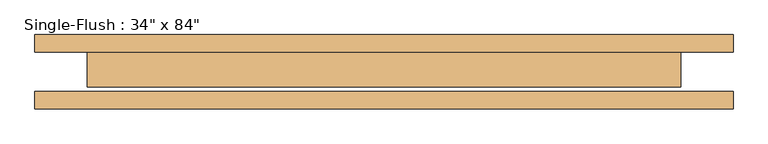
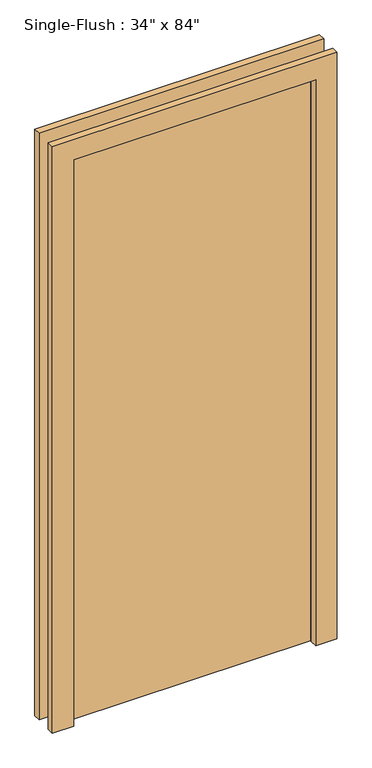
"""IFC4 building model written with IfcOpenShell, lengths in millimetres: door geometry."""

from ifc_helpers import new_model, si_unit, frame, origin, origin_with_axes, place, context, project, spatial, polyline, outline, extrude, source, transform, mapped, element, save


def door_31ee638c(model_context):
    return source(origin(), model_context, "Body", "SweptSolid", [
        extrude(outline(polyline([(2209.8, -508.0), (0.0, -508.0), (0.0, -431.8), (2133.6, -431.8), (2133.6, 431.8), (0.0, 431.8), (0.0, 508.0), (2209.8, 508.0), (2209.8, -508.0)])), frame((0.0, 28.575, 0.0), z_axis=(0.0, 1.0, 0.0), x_axis=(0.0, 0.0, 1.0)), (0.0, 0.0, 1.0), 25.4),
        extrude(outline(polyline([(2209.8, 508.0), (2209.8, -508.0), (0.0, -508.0), (0.0, -431.8), (2133.6, -431.8), (2133.6, 431.8), (0.0, 431.8), (0.0, 508.0), (2209.8, 508.0)])), frame((0.0, -53.975, 0.0), z_axis=(0.0, 1.0, 0.0), x_axis=(0.0, 0.0, 1.0)), (0.0, 0.0, 1.0), 25.4),
        extrude(outline(polyline([(431.8, -22.225), (-431.8, -22.225), (-431.8, 28.575), (431.8, 28.575), (431.8, -22.225)])), origin_with_axes(), (0.0, 0.0, 1.0), 2133.6),
    ])


if __name__ == "__main__":
    model = new_model("IFC4")
    model_context = context("Model", 3, world=origin())
    ifc_project = project(units=[si_unit("LENGTHUNIT", "METRE", prefix="MILLI")], contexts=[model_context])
    site = spatial("IfcSite", under=ifc_project)
    building = spatial("IfcBuilding", under=site)
    placement = place(None, origin())
    door_shape = door_31ee638c(model_context)
    element("IfcDoor", 1, ObjectType="Single-Flush : 34\" x 84\"", at=placement, inside=building, context=model_context, shape_type="MappedRepresentation", body=[
        mapped(door_shape, transform((0.0, 0.0, 0.0), x_axis=(1.0, 0.0, 0.0), y_axis=(0.0, 1.0, 0.0), z_axis=(0.0, 0.0, 1.0))),
    ])
    save(model, "model.ifc")
